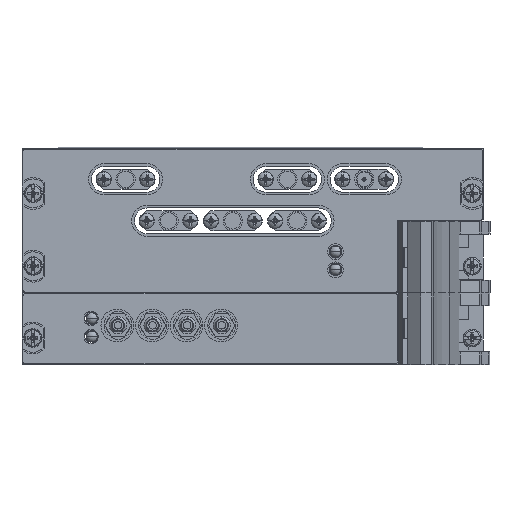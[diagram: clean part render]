
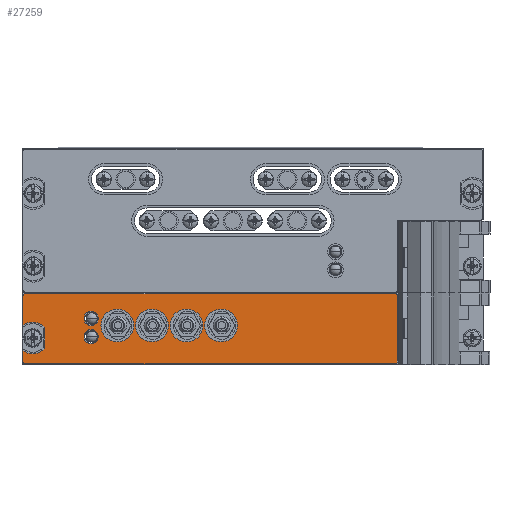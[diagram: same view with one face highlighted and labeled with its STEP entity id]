
A CAD part, left-side view. The second image highlights one B-rep face of the part: STEP entity #27259.
In plain terms, the highlighted planar face has unit normal (-1, 0, 0).
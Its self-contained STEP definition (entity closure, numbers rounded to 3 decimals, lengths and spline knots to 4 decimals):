
#4467=CARTESIAN_POINT('',(-0.215,0.5347,-0.123));
#4468=DIRECTION('',(-1.,0.,0.));
#4469=DIRECTION('',(0.,0.,1.));
#4470=AXIS2_PLACEMENT_3D('',#4467,#4468,#4469);
#4472=DIRECTION('',(0.,1.,0.));
#4473=VECTOR('',#4472,4.07);
#4474=CARTESIAN_POINT('',(-0.215,-3.5354,-0.103));
#4475=LINE('',#4474,#4473);
#4476=CARTESIAN_POINT('',(-0.215,-3.5354,-0.123));
#4477=DIRECTION('',(-1.,0.,0.));
#4478=DIRECTION('',(0.,-1.,0.));
#4479=AXIS2_PLACEMENT_3D('',#4476,#4477,#4478);
#4481=DIRECTION('',(0.,0.,1.));
#4482=VECTOR('',#4481,0.728);
#4483=CARTESIAN_POINT('',(-0.215,-3.5554,-0.851));
#4484=LINE('',#4483,#4482);
#4485=CARTESIAN_POINT('',(-0.215,-3.5354,-0.851));
#4486=DIRECTION('',(-1.,0.,0.));
#4487=DIRECTION('',(0.,0.,-1.));
#4488=AXIS2_PLACEMENT_3D('',#4485,#4486,#4487);
#4490=DIRECTION('',(0.,-1.,0.));
#4491=VECTOR('',#4490,4.07);
#4492=CARTESIAN_POINT('',(-0.215,0.5347,-0.871));
#4493=LINE('',#4492,#4491);
#4494=CARTESIAN_POINT('',(-0.215,0.5347,-0.851));
#4495=DIRECTION('',(-1.,0.,0.));
#4496=DIRECTION('',(0.,1.,0.));
#4497=AXIS2_PLACEMENT_3D('',#4494,#4495,#4496);
#4499=DIRECTION('',(0.,0.,-1.));
#4500=VECTOR('',#4499,0.1263);
#4501=CARTESIAN_POINT('',(-0.215,0.5547,-0.7247));
#4502=LINE('',#4501,#4500);
#4503=CARTESIAN_POINT('',(-0.215,0.4467,-0.587));
#4504=DIRECTION('',(1.,0.,0.));
#4505=DIRECTION('',(0.,-0.76,-0.65));
#4506=AXIS2_PLACEMENT_3D('',#4503,#4504,#4505);
#4508=DIRECTION('',(0.,0.,-1.));
#4509=VECTOR('',#4508,0.2275);
#4510=CARTESIAN_POINT('',(-0.215,0.3137,-0.4733));
#4511=LINE('',#4510,#4509);
#4512=CARTESIAN_POINT('',(-0.215,0.4467,-0.587));
#4513=DIRECTION('',(1.,0.,0.));
#4514=DIRECTION('',(0.,0.617,0.787));
#4515=AXIS2_PLACEMENT_3D('',#4512,#4513,#4514);
#4517=DIRECTION('',(0.,0.,-1.));
#4518=VECTOR('',#4517,0.3263);
#4519=CARTESIAN_POINT('',(-0.215,0.5547,-0.123));
#4520=LINE('',#4519,#4518);
#4521=CARTESIAN_POINT('',(-0.215,-0.4814,-0.45));
#4522=DIRECTION('',(-1.,0.,0.));
#4523=DIRECTION('',(0.,0.,1.));
#4524=AXIS2_PLACEMENT_3D('',#4521,#4522,#4523);
#4526=CARTESIAN_POINT('',(-0.215,-0.4814,-0.45));
#4527=DIRECTION('',(-1.,0.,0.));
#4528=DIRECTION('',(0.,0.,-1.));
#4529=AXIS2_PLACEMENT_3D('',#4526,#4527,#4528);
#4531=CARTESIAN_POINT('',(-0.215,-0.8614,-0.45));
#4532=DIRECTION('',(-1.,0.,0.));
#4533=DIRECTION('',(0.,0.,1.));
#4534=AXIS2_PLACEMENT_3D('',#4531,#4532,#4533);
#4536=CARTESIAN_POINT('',(-0.215,-0.8614,-0.45));
#4537=DIRECTION('',(-1.,0.,0.));
#4538=DIRECTION('',(0.,0.,-1.));
#4539=AXIS2_PLACEMENT_3D('',#4536,#4537,#4538);
#4541=CARTESIAN_POINT('',(-0.215,-1.2414,-0.45));
#4542=DIRECTION('',(-1.,0.,0.));
#4543=DIRECTION('',(0.,0.,1.));
#4544=AXIS2_PLACEMENT_3D('',#4541,#4542,#4543);
#4546=CARTESIAN_POINT('',(-0.215,-1.2414,-0.45));
#4547=DIRECTION('',(-1.,0.,0.));
#4548=DIRECTION('',(0.,0.,-1.));
#4549=AXIS2_PLACEMENT_3D('',#4546,#4547,#4548);
#4551=CARTESIAN_POINT('',(-0.215,-1.6214,-0.45));
#4552=DIRECTION('',(-1.,0.,0.));
#4553=DIRECTION('',(0.,0.,1.));
#4554=AXIS2_PLACEMENT_3D('',#4551,#4552,#4553);
#4556=CARTESIAN_POINT('',(-0.215,-1.6214,-0.45));
#4557=DIRECTION('',(-1.,0.,0.));
#4558=DIRECTION('',(0.,0.,-1.));
#4559=AXIS2_PLACEMENT_3D('',#4556,#4557,#4558);
#4561=CARTESIAN_POINT('',(-0.215,-0.1944,-0.373));
#4562=DIRECTION('',(-1.,0.,0.));
#4563=DIRECTION('',(0.,-1.,0.));
#4564=AXIS2_PLACEMENT_3D('',#4561,#4562,#4563);
#4566=CARTESIAN_POINT('',(-0.215,-0.1944,-0.373));
#4567=DIRECTION('',(-1.,0.,0.));
#4568=DIRECTION('',(0.,1.,0.));
#4569=AXIS2_PLACEMENT_3D('',#4566,#4567,#4568);
#4571=CARTESIAN_POINT('',(-0.215,-0.1944,-0.573));
#4572=DIRECTION('',(-1.,0.,0.));
#4573=DIRECTION('',(0.,-1.,0.));
#4574=AXIS2_PLACEMENT_3D('',#4571,#4572,#4573);
#4576=CARTESIAN_POINT('',(-0.215,-0.1944,-0.573));
#4577=DIRECTION('',(-1.,0.,0.));
#4578=DIRECTION('',(0.,1.,0.));
#4579=AXIS2_PLACEMENT_3D('',#4576,#4577,#4578);
#20123=CARTESIAN_POINT('',(-0.215,0.5347,-0.103));
#20124=CARTESIAN_POINT('',(-0.215,0.5547,-0.123));
#20125=VERTEX_POINT('',#20123);
#20126=VERTEX_POINT('',#20124);
#20127=CARTESIAN_POINT('',(-0.215,0.5547,-0.4493));
#20128=VERTEX_POINT('',#20127);
#20129=CARTESIAN_POINT('',(-0.215,0.3137,-0.4733));
#20130=VERTEX_POINT('',#20129);
#20131=CARTESIAN_POINT('',(-0.215,0.3137,-0.7007));
#20132=VERTEX_POINT('',#20131);
#20133=CARTESIAN_POINT('',(-0.215,0.5547,-0.7247));
#20134=VERTEX_POINT('',#20133);
#20135=CARTESIAN_POINT('',(-0.215,0.5547,-0.851));
#20136=VERTEX_POINT('',#20135);
#20137=CARTESIAN_POINT('',(-0.215,0.5347,-0.871));
#20138=VERTEX_POINT('',#20137);
#20139=CARTESIAN_POINT('',(-0.215,-3.5354,-0.871));
#20140=VERTEX_POINT('',#20139);
#20141=CARTESIAN_POINT('',(-0.215,-3.5554,-0.851));
#20142=VERTEX_POINT('',#20141);
#20143=CARTESIAN_POINT('',(-0.215,-3.5554,-0.123));
#20144=VERTEX_POINT('',#20143);
#20145=CARTESIAN_POINT('',(-0.215,-3.5354,-0.103));
#20146=VERTEX_POINT('',#20145);
#20147=CARTESIAN_POINT('',(-0.215,-0.4814,-0.27));
#20148=CARTESIAN_POINT('',(-0.215,-0.4814,-0.63));
#20149=VERTEX_POINT('',#20147);
#20150=VERTEX_POINT('',#20148);
#20151=CARTESIAN_POINT('',(-0.215,-0.8614,-0.27));
#20152=CARTESIAN_POINT('',(-0.215,-0.8614,-0.63));
#20153=VERTEX_POINT('',#20151);
#20154=VERTEX_POINT('',#20152);
#20155=CARTESIAN_POINT('',(-0.215,-1.2414,-0.27));
#20156=CARTESIAN_POINT('',(-0.215,-1.2414,-0.63));
#20157=VERTEX_POINT('',#20155);
#20158=VERTEX_POINT('',#20156);
#20159=CARTESIAN_POINT('',(-0.215,-1.6214,-0.27));
#20160=CARTESIAN_POINT('',(-0.215,-1.6214,-0.63));
#20161=VERTEX_POINT('',#20159);
#20162=VERTEX_POINT('',#20160);
#20163=CARTESIAN_POINT('',(-0.215,-0.2729,-0.373));
#20164=CARTESIAN_POINT('',(-0.215,-0.1159,-0.373));
#20165=VERTEX_POINT('',#20163);
#20166=VERTEX_POINT('',#20164);
#20167=CARTESIAN_POINT('',(-0.215,-0.2729,-0.573));
#20168=CARTESIAN_POINT('',(-0.215,-0.1159,-0.573));
#20169=VERTEX_POINT('',#20167);
#20170=VERTEX_POINT('',#20168);
#27203=CARTESIAN_POINT('',(-0.215,0.4467,-0.587));
#27204=DIRECTION('',(-1.,0.,0.));
#27205=DIRECTION('',(0.,0.,1.));
#27206=AXIS2_PLACEMENT_3D('',#27203,#27204,#27205);
#27207=PLANE('',#27206);
#27208=ORIENTED_EDGE('',*,*,#27025,.F.);
#27210=ORIENTED_EDGE('',*,*,#27209,.F.);
#27211=ORIENTED_EDGE('',*,*,#27070,.F.);
#27212=ORIENTED_EDGE('',*,*,#27086,.F.);
#27213=ORIENTED_EDGE('',*,*,#27100,.F.);
#27214=ORIENTED_EDGE('',*,*,#27114,.F.);
#27215=ORIENTED_EDGE('',*,*,#27128,.F.);
#27216=ORIENTED_EDGE('',*,*,#27142,.F.);
#27217=ORIENTED_EDGE('',*,*,#27156,.F.);
#27218=ORIENTED_EDGE('',*,*,#27170,.F.);
#27219=ORIENTED_EDGE('',*,*,#27184,.F.);
#27220=ORIENTED_EDGE('',*,*,#27197,.F.);
#27221=EDGE_LOOP('',(#27208,#27210,#27211,#27212,#27213,#27214,#27215,#27216,
#27217,#27218,#27219,#27220));
#27222=FACE_OUTER_BOUND('',#27221,.F.);
#27224=ORIENTED_EDGE('',*,*,#27223,.T.);
#27226=ORIENTED_EDGE('',*,*,#27225,.T.);
#27227=EDGE_LOOP('',(#27224,#27226));
#27228=FACE_BOUND('',#27227,.F.);
#27230=ORIENTED_EDGE('',*,*,#27229,.T.);
#27232=ORIENTED_EDGE('',*,*,#27231,.T.);
#27233=EDGE_LOOP('',(#27230,#27232));
#27234=FACE_BOUND('',#27233,.F.);
#27236=ORIENTED_EDGE('',*,*,#27235,.T.);
#27238=ORIENTED_EDGE('',*,*,#27237,.T.);
#27239=EDGE_LOOP('',(#27236,#27238));
#27240=FACE_BOUND('',#27239,.F.);
#27242=ORIENTED_EDGE('',*,*,#27241,.T.);
#27244=ORIENTED_EDGE('',*,*,#27243,.T.);
#27245=EDGE_LOOP('',(#27242,#27244));
#27246=FACE_BOUND('',#27245,.F.);
#27248=ORIENTED_EDGE('',*,*,#27247,.T.);
#27250=ORIENTED_EDGE('',*,*,#27249,.T.);
#27251=EDGE_LOOP('',(#27248,#27250));
#27252=FACE_BOUND('',#27251,.F.);
#27254=ORIENTED_EDGE('',*,*,#27253,.T.);
#27256=ORIENTED_EDGE('',*,*,#27255,.T.);
#27257=EDGE_LOOP('',(#27254,#27256));
#27258=FACE_BOUND('',#27257,.F.);
#27259=ADVANCED_FACE('',(#27222,#27228,#27234,#27240,#27246,#27252,#27258),
#27207,.T.);
#4471=CIRCLE('',#4470,0.02);
#4480=CIRCLE('',#4479,0.02);
#4489=CIRCLE('',#4488,0.02);
#4498=CIRCLE('',#4497,0.02);
#4507=CIRCLE('',#4506,0.175);
#4516=CIRCLE('',#4515,0.175);
#4525=CIRCLE('',#4524,0.18);
#4530=CIRCLE('',#4529,0.18);
#4535=CIRCLE('',#4534,0.18);
#4540=CIRCLE('',#4539,0.18);
#4545=CIRCLE('',#4544,0.18);
#4550=CIRCLE('',#4549,0.18);
#4555=CIRCLE('',#4554,0.18);
#4560=CIRCLE('',#4559,0.18);
#4565=CIRCLE('',#4564,0.0785);
#4570=CIRCLE('',#4569,0.0785);
#4575=CIRCLE('',#4574,0.0785);
#4580=CIRCLE('',#4579,0.0785);
#27025=EDGE_CURVE('',#20125,#20126,#4471,.T.);
#27070=EDGE_CURVE('',#20144,#20146,#4480,.T.);
#27086=EDGE_CURVE('',#20142,#20144,#4484,.T.);
#27100=EDGE_CURVE('',#20140,#20142,#4489,.T.);
#27114=EDGE_CURVE('',#20138,#20140,#4493,.T.);
#27128=EDGE_CURVE('',#20136,#20138,#4498,.T.);
#27142=EDGE_CURVE('',#20134,#20136,#4502,.T.);
#27156=EDGE_CURVE('',#20132,#20134,#4507,.T.);
#27170=EDGE_CURVE('',#20130,#20132,#4511,.T.);
#27184=EDGE_CURVE('',#20128,#20130,#4516,.T.);
#27197=EDGE_CURVE('',#20126,#20128,#4520,.T.);
#27209=EDGE_CURVE('',#20146,#20125,#4475,.T.);
#27223=EDGE_CURVE('',#20149,#20150,#4525,.T.);
#27225=EDGE_CURVE('',#20150,#20149,#4530,.T.);
#27229=EDGE_CURVE('',#20153,#20154,#4535,.T.);
#27231=EDGE_CURVE('',#20154,#20153,#4540,.T.);
#27235=EDGE_CURVE('',#20157,#20158,#4545,.T.);
#27237=EDGE_CURVE('',#20158,#20157,#4550,.T.);
#27241=EDGE_CURVE('',#20161,#20162,#4555,.T.);
#27243=EDGE_CURVE('',#20162,#20161,#4560,.T.);
#27247=EDGE_CURVE('',#20165,#20166,#4565,.T.);
#27249=EDGE_CURVE('',#20166,#20165,#4570,.T.);
#27253=EDGE_CURVE('',#20169,#20170,#4575,.T.);
#27255=EDGE_CURVE('',#20170,#20169,#4580,.T.);
